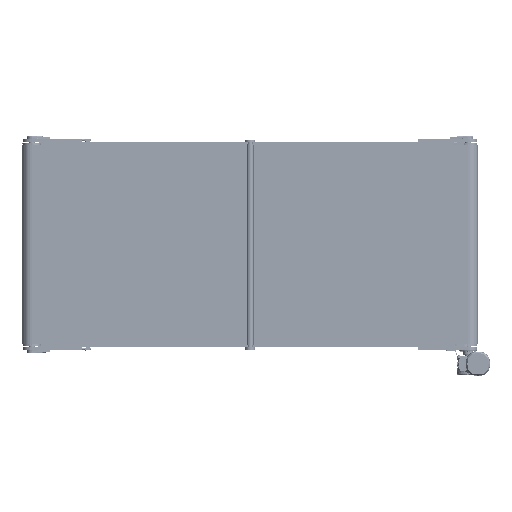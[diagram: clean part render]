
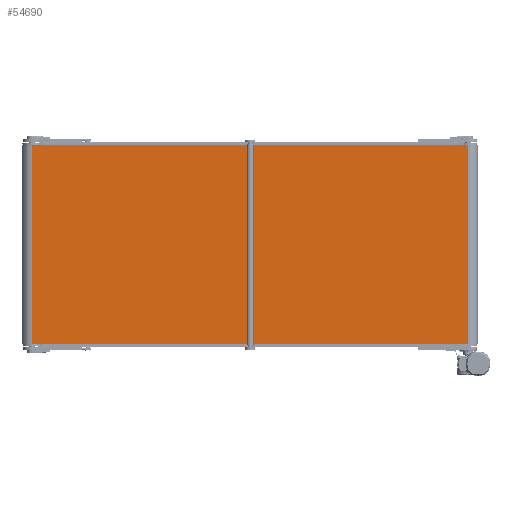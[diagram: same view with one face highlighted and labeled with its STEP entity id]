
A CAD part, front view. The second image highlights one B-rep face of the part: STEP entity #54690.
In plain terms, the highlighted planar face has unit normal (0, -1, 0).
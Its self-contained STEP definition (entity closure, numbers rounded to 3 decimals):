
#3449 = EDGE_CURVE ( 'NONE', #165498, #121647, #62221, .T. ) ;
#4371 = LINE ( 'NONE', #117323, #64824 ) ;
#11624 = EDGE_CURVE ( 'NONE', #173356, #97129, #4371, .T. ) ;
#18393 = EDGE_LOOP ( 'NONE', ( #105049, #50357, #194445, #50912 ) ) ;
#25067 = CARTESIAN_POINT ( 'NONE',  ( -1100., -49.5, 500. ) ) ;
#50357 = ORIENTED_EDGE ( 'NONE', *, *, #164123, .F. ) ;
#50912 = ORIENTED_EDGE ( 'NONE', *, *, #98515, .T. ) ;
#54690 = ADVANCED_FACE ( 'NONE', ( #120711 ), #183317, .F. ) ;
#59086 = DIRECTION ( 'NONE',  ( 0., 1., 0. ) ) ;
#62221 = LINE ( 'NONE', #127884, #161033 ) ;
#64824 = VECTOR ( 'NONE', #68068, 1000. ) ;
#68068 = DIRECTION ( 'NONE',  ( 1., 0., 0. ) ) ;
#68550 = CARTESIAN_POINT ( 'NONE',  ( 1100., -49.5, 500. ) ) ;
#72327 = LINE ( 'NONE', #25067, #112607 ) ;
#74275 = VECTOR ( 'NONE', #81754, 1000. ) ;
#81754 = DIRECTION ( 'NONE',  ( 0., 0., -1. ) ) ;
#90464 = CARTESIAN_POINT ( 'NONE',  ( -1100., -49.5, -500. ) ) ;
#97129 = VERTEX_POINT ( 'NONE', #156567 ) ;
#98515 = EDGE_CURVE ( 'NONE', #165498, #173356, #72327, .T. ) ;
#105049 = ORIENTED_EDGE ( 'NONE', *, *, #11624, .T. ) ;
#108467 = CARTESIAN_POINT ( 'NONE',  ( 1100., -49.5, 500. ) ) ;
#112607 = VECTOR ( 'NONE', #178087, 1000. ) ;
#117323 = CARTESIAN_POINT ( 'NONE',  ( -1100., -49.5, -500. ) ) ;
#120711 = FACE_OUTER_BOUND ( 'NONE', #18393, .T. ) ;
#121647 = VERTEX_POINT ( 'NONE', #68550 ) ;
#121705 = DIRECTION ( 'NONE',  ( 0., 0., 1. ) ) ;
#127884 = CARTESIAN_POINT ( 'NONE',  ( -1100., -49.5, 500. ) ) ;
#150257 = AXIS2_PLACEMENT_3D ( 'NONE', #199776, #59086, #121705 ) ;
#156567 = CARTESIAN_POINT ( 'NONE',  ( 1100., -49.5, -500. ) ) ;
#156650 = DIRECTION ( 'NONE',  ( 1., 0., 0. ) ) ;
#158706 = LINE ( 'NONE', #108467, #74275 ) ;
#161033 = VECTOR ( 'NONE', #156650, 1000. ) ;
#164123 = EDGE_CURVE ( 'NONE', #121647, #97129, #158706, .T. ) ;
#165498 = VERTEX_POINT ( 'NONE', #189223 ) ;
#173356 = VERTEX_POINT ( 'NONE', #90464 ) ;
#178087 = DIRECTION ( 'NONE',  ( 0., 0., -1. ) ) ;
#183317 = PLANE ( 'NONE',  #150257 ) ;
#189223 = CARTESIAN_POINT ( 'NONE',  ( -1100., -49.5, 500. ) ) ;
#194445 = ORIENTED_EDGE ( 'NONE', *, *, #3449, .F. ) ;
#199776 = CARTESIAN_POINT ( 'NONE',  ( -1100., -49.5, 500. ) ) ;
